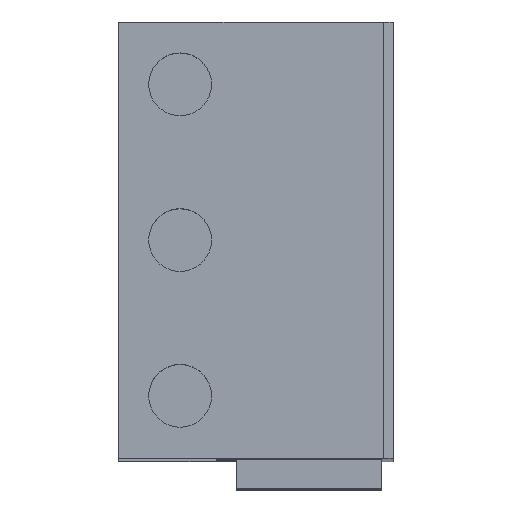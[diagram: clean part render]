
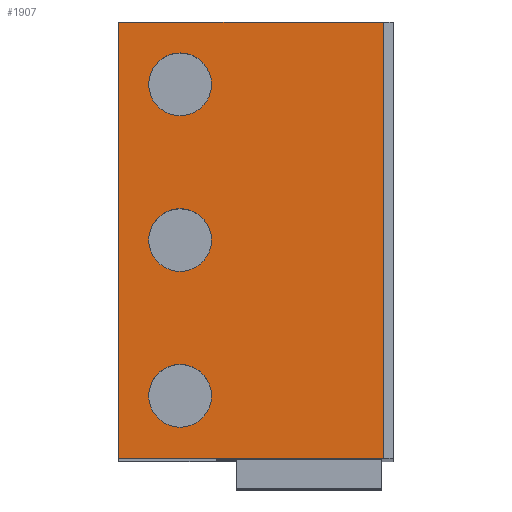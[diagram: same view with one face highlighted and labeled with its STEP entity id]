
A CAD part, top view. The second image highlights one B-rep face of the part: STEP entity #1907.
In plain terms, the highlighted planar face has unit normal (0, 0, 1).
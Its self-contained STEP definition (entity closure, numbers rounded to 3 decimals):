
#32 = PLANE('',#33);
#33 = AXIS2_PLACEMENT_3D('',#34,#35,#36);
#34 = CARTESIAN_POINT('',(138.8,0.,0.));
#35 = DIRECTION('',(0.,1.,0.));
#36 = DIRECTION('',(0.,0.,1.));
#729 = VERTEX_POINT('',#730);
#730 = CARTESIAN_POINT('',(112.,0.,200.));
#744 = PLANE('',#745);
#745 = AXIS2_PLACEMENT_3D('',#746,#747,#748);
#746 = CARTESIAN_POINT('',(112.,0.,188.));
#747 = DIRECTION('',(1.,0.,0.));
#748 = DIRECTION('',(0.,0.,1.));
#756 = EDGE_CURVE('',#757,#729,#759,.T.);
#757 = VERTEX_POINT('',#758);
#758 = CARTESIAN_POINT('',(139.,0.,200.));
#759 = SURFACE_CURVE('',#760,(#764,#771),.PCURVE_S1.);
#760 = LINE('',#761,#762);
#761 = CARTESIAN_POINT('',(140.,0.,200.));
#762 = VECTOR('',#763,1.);
#763 = DIRECTION('',(-1.,0.,0.));
#764 = PCURVE('',#32,#765);
#765 = DEFINITIONAL_REPRESENTATION('',(#766),#770);
#766 = LINE('',#767,#768);
#767 = CARTESIAN_POINT('',(200.,1.2));
#768 = VECTOR('',#769,1.);
#769 = DIRECTION('',(0.,-1.));
#770 = ( GEOMETRIC_REPRESENTATION_CONTEXT(2) 
PARAMETRIC_REPRESENTATION_CONTEXT() REPRESENTATION_CONTEXT('2D SPACE',''
  ) );
#771 = PCURVE('',#772,#777);
#772 = PLANE('',#773);
#773 = AXIS2_PLACEMENT_3D('',#774,#775,#776);
#774 = CARTESIAN_POINT('',(138.8,0.,200.));
#775 = DIRECTION('',(0.,0.,1.));
#776 = DIRECTION('',(1.,0.,0.));
#777 = DEFINITIONAL_REPRESENTATION('',(#778),#782);
#778 = LINE('',#779,#780);
#779 = CARTESIAN_POINT('',(1.2,0.));
#780 = VECTOR('',#781,1.);
#781 = DIRECTION('',(-1.,0.));
#782 = ( GEOMETRIC_REPRESENTATION_CONTEXT(2) 
PARAMETRIC_REPRESENTATION_CONTEXT() REPRESENTATION_CONTEXT('2D SPACE',''
  ) );
#799 = PLANE('',#800);
#800 = AXIS2_PLACEMENT_3D('',#801,#802,#803);
#801 = CARTESIAN_POINT('',(138.,-1.,201.));
#802 = DIRECTION('',(-0.707,-0.,-0.707));
#803 = DIRECTION('',(0.707,0.,-0.707));
#1204 = PLANE('',#1205);
#1205 = AXIS2_PLACEMENT_3D('',#1206,#1207,#1208);
#1206 = CARTESIAN_POINT('',(138.8,44.45,0.));
#1207 = DIRECTION('',(0.,1.,0.));
#1208 = DIRECTION('',(0.,0.,1.));
#1819 = EDGE_CURVE('',#1820,#757,#1822,.T.);
#1820 = VERTEX_POINT('',#1821);
#1821 = CARTESIAN_POINT('',(139.,44.45,200.));
#1822 = SURFACE_CURVE('',#1823,(#1827,#1833),.PCURVE_S1.);
#1823 = LINE('',#1824,#1825);
#1824 = CARTESIAN_POINT('',(139.,-0.5,200.));
#1825 = VECTOR('',#1826,1.);
#1826 = DIRECTION('',(0.,-1.,0.));
#1827 = PCURVE('',#799,#1828);
#1828 = DEFINITIONAL_REPRESENTATION('',(#1829),#1832);
#1829 = B_SPLINE_CURVE_WITH_KNOTS('',1,(#1830,#1831),.UNSPECIFIED.,.F.,
  .F.,(2,2),(-44.95,-0.5),.PIECEWISE_BEZIER_KNOTS.);
#1830 = CARTESIAN_POINT('',(1.414,-45.45));
#1831 = CARTESIAN_POINT('',(1.414,-1.));
#1832 = ( GEOMETRIC_REPRESENTATION_CONTEXT(2) 
PARAMETRIC_REPRESENTATION_CONTEXT() REPRESENTATION_CONTEXT('2D SPACE',''
  ) );
#1833 = PCURVE('',#772,#1834);
#1834 = DEFINITIONAL_REPRESENTATION('',(#1835),#1838);
#1835 = B_SPLINE_CURVE_WITH_KNOTS('',1,(#1836,#1837),.UNSPECIFIED.,.F.,
  .F.,(2,2),(-44.95,-0.5),.PIECEWISE_BEZIER_KNOTS.);
#1836 = CARTESIAN_POINT('',(0.2,44.45));
#1837 = CARTESIAN_POINT('',(0.2,0.));
#1838 = ( GEOMETRIC_REPRESENTATION_CONTEXT(2) 
PARAMETRIC_REPRESENTATION_CONTEXT() REPRESENTATION_CONTEXT('2D SPACE',''
  ) );
#1907 = ADVANCED_FACE('',(#1908,#1956,#1991,#2026),#772,.T.);
#1908 = FACE_BOUND('',#1909,.T.);
#1909 = EDGE_LOOP('',(#1910,#1911,#1934,#1955));
#1910 = ORIENTED_EDGE('',*,*,#1819,.F.);
#1911 = ORIENTED_EDGE('',*,*,#1912,.T.);
#1912 = EDGE_CURVE('',#1820,#1913,#1915,.T.);
#1913 = VERTEX_POINT('',#1914);
#1914 = CARTESIAN_POINT('',(112.,44.45,200.));
#1915 = SURFACE_CURVE('',#1916,(#1920,#1927),.PCURVE_S1.);
#1916 = LINE('',#1917,#1918);
#1917 = CARTESIAN_POINT('',(140.,44.45,200.));
#1918 = VECTOR('',#1919,1.);
#1919 = DIRECTION('',(-1.,0.,0.));
#1920 = PCURVE('',#772,#1921);
#1921 = DEFINITIONAL_REPRESENTATION('',(#1922),#1926);
#1922 = LINE('',#1923,#1924);
#1923 = CARTESIAN_POINT('',(1.2,44.45));
#1924 = VECTOR('',#1925,1.);
#1925 = DIRECTION('',(-1.,0.));
#1926 = ( GEOMETRIC_REPRESENTATION_CONTEXT(2) 
PARAMETRIC_REPRESENTATION_CONTEXT() REPRESENTATION_CONTEXT('2D SPACE',''
  ) );
#1927 = PCURVE('',#1204,#1928);
#1928 = DEFINITIONAL_REPRESENTATION('',(#1929),#1933);
#1929 = LINE('',#1930,#1931);
#1930 = CARTESIAN_POINT('',(200.,1.2));
#1931 = VECTOR('',#1932,1.);
#1932 = DIRECTION('',(0.,-1.));
#1933 = ( GEOMETRIC_REPRESENTATION_CONTEXT(2) 
PARAMETRIC_REPRESENTATION_CONTEXT() REPRESENTATION_CONTEXT('2D SPACE',''
  ) );
#1934 = ORIENTED_EDGE('',*,*,#1935,.F.);
#1935 = EDGE_CURVE('',#729,#1913,#1936,.T.);
#1936 = SURFACE_CURVE('',#1937,(#1941,#1948),.PCURVE_S1.);
#1937 = LINE('',#1938,#1939);
#1938 = CARTESIAN_POINT('',(112.,0.,200.));
#1939 = VECTOR('',#1940,1.);
#1940 = DIRECTION('',(0.,1.,0.));
#1941 = PCURVE('',#772,#1942);
#1942 = DEFINITIONAL_REPRESENTATION('',(#1943),#1947);
#1943 = LINE('',#1944,#1945);
#1944 = CARTESIAN_POINT('',(-26.8,0.));
#1945 = VECTOR('',#1946,1.);
#1946 = DIRECTION('',(0.,1.));
#1947 = ( GEOMETRIC_REPRESENTATION_CONTEXT(2) 
PARAMETRIC_REPRESENTATION_CONTEXT() REPRESENTATION_CONTEXT('2D SPACE',''
  ) );
#1948 = PCURVE('',#744,#1949);
#1949 = DEFINITIONAL_REPRESENTATION('',(#1950),#1954);
#1950 = LINE('',#1951,#1952);
#1951 = CARTESIAN_POINT('',(12.,0.));
#1952 = VECTOR('',#1953,1.);
#1953 = DIRECTION('',(0.,-1.));
#1954 = ( GEOMETRIC_REPRESENTATION_CONTEXT(2) 
PARAMETRIC_REPRESENTATION_CONTEXT() REPRESENTATION_CONTEXT('2D SPACE',''
  ) );
#1955 = ORIENTED_EDGE('',*,*,#756,.F.);
#1956 = FACE_BOUND('',#1957,.T.);
#1957 = EDGE_LOOP('',(#1958));
#1958 = ORIENTED_EDGE('',*,*,#1959,.T.);
#1959 = EDGE_CURVE('',#1960,#1960,#1962,.T.);
#1960 = VERTEX_POINT('',#1961);
#1961 = CARTESIAN_POINT('',(121.463,6.35,200.));
#1962 = SURFACE_CURVE('',#1963,(#1968,#1979),.PCURVE_S1.);
#1963 = CIRCLE('',#1964,3.2);
#1964 = AXIS2_PLACEMENT_3D('',#1965,#1966,#1967);
#1965 = CARTESIAN_POINT('',(118.263,6.35,200.));
#1966 = DIRECTION('',(0.,0.,-1.));
#1967 = DIRECTION('',(1.,0.,0.));
#1968 = PCURVE('',#772,#1969);
#1969 = DEFINITIONAL_REPRESENTATION('',(#1970),#1978);
#1970 = ( BOUNDED_CURVE() B_SPLINE_CURVE(2,(#1971,#1972,#1973,#1974,
#1975,#1976,#1977),.UNSPECIFIED.,.T.,.F.) B_SPLINE_CURVE_WITH_KNOTS((1,2
    ,2,2,2,1),(-2.094,0.,2.094,4.189,
6.283,8.378),.UNSPECIFIED.) CURVE() 
GEOMETRIC_REPRESENTATION_ITEM() RATIONAL_B_SPLINE_CURVE((1.,0.5,1.,0.5,
1.,0.5,1.)) REPRESENTATION_ITEM('') );
#1971 = CARTESIAN_POINT('',(-17.338,6.35));
#1972 = CARTESIAN_POINT('',(-17.338,0.807));
#1973 = CARTESIAN_POINT('',(-22.138,3.579));
#1974 = CARTESIAN_POINT('',(-26.938,6.35));
#1975 = CARTESIAN_POINT('',(-22.138,9.121));
#1976 = CARTESIAN_POINT('',(-17.338,11.893));
#1977 = CARTESIAN_POINT('',(-17.338,6.35));
#1978 = ( GEOMETRIC_REPRESENTATION_CONTEXT(2) 
PARAMETRIC_REPRESENTATION_CONTEXT() REPRESENTATION_CONTEXT('2D SPACE',''
  ) );
#1979 = PCURVE('',#1980,#1985);
#1980 = CYLINDRICAL_SURFACE('',#1981,3.2);
#1981 = AXIS2_PLACEMENT_3D('',#1982,#1983,#1984);
#1982 = CARTESIAN_POINT('',(118.263,6.35,190.));
#1983 = DIRECTION('',(-0.,-0.,-1.));
#1984 = DIRECTION('',(1.,0.,0.));
#1985 = DEFINITIONAL_REPRESENTATION('',(#1986),#1990);
#1986 = LINE('',#1987,#1988);
#1987 = CARTESIAN_POINT('',(-6.283,-10.));
#1988 = VECTOR('',#1989,1.);
#1989 = DIRECTION('',(1.,-0.));
#1990 = ( GEOMETRIC_REPRESENTATION_CONTEXT(2) 
PARAMETRIC_REPRESENTATION_CONTEXT() REPRESENTATION_CONTEXT('2D SPACE',''
  ) );
#1991 = FACE_BOUND('',#1992,.T.);
#1992 = EDGE_LOOP('',(#1993));
#1993 = ORIENTED_EDGE('',*,*,#1994,.T.);
#1994 = EDGE_CURVE('',#1995,#1995,#1997,.T.);
#1995 = VERTEX_POINT('',#1996);
#1996 = CARTESIAN_POINT('',(121.463,22.225,200.));
#1997 = SURFACE_CURVE('',#1998,(#2003,#2014),.PCURVE_S1.);
#1998 = CIRCLE('',#1999,3.2);
#1999 = AXIS2_PLACEMENT_3D('',#2000,#2001,#2002);
#2000 = CARTESIAN_POINT('',(118.263,22.225,200.));
#2001 = DIRECTION('',(0.,0.,-1.));
#2002 = DIRECTION('',(1.,0.,0.));
#2003 = PCURVE('',#772,#2004);
#2004 = DEFINITIONAL_REPRESENTATION('',(#2005),#2013);
#2005 = ( BOUNDED_CURVE() B_SPLINE_CURVE(2,(#2006,#2007,#2008,#2009,
#2010,#2011,#2012),.UNSPECIFIED.,.T.,.F.) B_SPLINE_CURVE_WITH_KNOTS((1,2
    ,2,2,2,1),(-2.094,0.,2.094,4.189,
6.283,8.378),.UNSPECIFIED.) CURVE() 
GEOMETRIC_REPRESENTATION_ITEM() RATIONAL_B_SPLINE_CURVE((1.,0.5,1.,0.5,
1.,0.5,1.)) REPRESENTATION_ITEM('') );
#2006 = CARTESIAN_POINT('',(-17.338,22.225));
#2007 = CARTESIAN_POINT('',(-17.338,16.682));
#2008 = CARTESIAN_POINT('',(-22.138,19.454));
#2009 = CARTESIAN_POINT('',(-26.938,22.225));
#2010 = CARTESIAN_POINT('',(-22.138,24.996));
#2011 = CARTESIAN_POINT('',(-17.338,27.768));
#2012 = CARTESIAN_POINT('',(-17.338,22.225));
#2013 = ( GEOMETRIC_REPRESENTATION_CONTEXT(2) 
PARAMETRIC_REPRESENTATION_CONTEXT() REPRESENTATION_CONTEXT('2D SPACE',''
  ) );
#2014 = PCURVE('',#2015,#2020);
#2015 = CYLINDRICAL_SURFACE('',#2016,3.2);
#2016 = AXIS2_PLACEMENT_3D('',#2017,#2018,#2019);
#2017 = CARTESIAN_POINT('',(118.263,22.225,190.));
#2018 = DIRECTION('',(-0.,-0.,-1.));
#2019 = DIRECTION('',(1.,0.,0.));
#2020 = DEFINITIONAL_REPRESENTATION('',(#2021),#2025);
#2021 = LINE('',#2022,#2023);
#2022 = CARTESIAN_POINT('',(-6.283,-10.));
#2023 = VECTOR('',#2024,1.);
#2024 = DIRECTION('',(1.,-0.));
#2025 = ( GEOMETRIC_REPRESENTATION_CONTEXT(2) 
PARAMETRIC_REPRESENTATION_CONTEXT() REPRESENTATION_CONTEXT('2D SPACE',''
  ) );
#2026 = FACE_BOUND('',#2027,.T.);
#2027 = EDGE_LOOP('',(#2028));
#2028 = ORIENTED_EDGE('',*,*,#2029,.T.);
#2029 = EDGE_CURVE('',#2030,#2030,#2032,.T.);
#2030 = VERTEX_POINT('',#2031);
#2031 = CARTESIAN_POINT('',(121.463,38.1,200.));
#2032 = SURFACE_CURVE('',#2033,(#2038,#2049),.PCURVE_S1.);
#2033 = CIRCLE('',#2034,3.2);
#2034 = AXIS2_PLACEMENT_3D('',#2035,#2036,#2037);
#2035 = CARTESIAN_POINT('',(118.263,38.1,200.));
#2036 = DIRECTION('',(0.,0.,-1.));
#2037 = DIRECTION('',(1.,0.,0.));
#2038 = PCURVE('',#772,#2039);
#2039 = DEFINITIONAL_REPRESENTATION('',(#2040),#2048);
#2040 = ( BOUNDED_CURVE() B_SPLINE_CURVE(2,(#2041,#2042,#2043,#2044,
#2045,#2046,#2047),.UNSPECIFIED.,.T.,.F.) B_SPLINE_CURVE_WITH_KNOTS((1,2
    ,2,2,2,1),(-2.094,0.,2.094,4.189,
6.283,8.378),.UNSPECIFIED.) CURVE() 
GEOMETRIC_REPRESENTATION_ITEM() RATIONAL_B_SPLINE_CURVE((1.,0.5,1.,0.5,
1.,0.5,1.)) REPRESENTATION_ITEM('') );
#2041 = CARTESIAN_POINT('',(-17.338,38.1));
#2042 = CARTESIAN_POINT('',(-17.338,32.557));
#2043 = CARTESIAN_POINT('',(-22.138,35.329));
#2044 = CARTESIAN_POINT('',(-26.938,38.1));
#2045 = CARTESIAN_POINT('',(-22.138,40.871));
#2046 = CARTESIAN_POINT('',(-17.338,43.643));
#2047 = CARTESIAN_POINT('',(-17.338,38.1));
#2048 = ( GEOMETRIC_REPRESENTATION_CONTEXT(2) 
PARAMETRIC_REPRESENTATION_CONTEXT() REPRESENTATION_CONTEXT('2D SPACE',''
  ) );
#2049 = PCURVE('',#2050,#2055);
#2050 = CYLINDRICAL_SURFACE('',#2051,3.2);
#2051 = AXIS2_PLACEMENT_3D('',#2052,#2053,#2054);
#2052 = CARTESIAN_POINT('',(118.263,38.1,190.));
#2053 = DIRECTION('',(-0.,-0.,-1.));
#2054 = DIRECTION('',(1.,0.,0.));
#2055 = DEFINITIONAL_REPRESENTATION('',(#2056),#2060);
#2056 = LINE('',#2057,#2058);
#2057 = CARTESIAN_POINT('',(-6.283,-10.));
#2058 = VECTOR('',#2059,1.);
#2059 = DIRECTION('',(1.,-0.));
#2060 = ( GEOMETRIC_REPRESENTATION_CONTEXT(2) 
PARAMETRIC_REPRESENTATION_CONTEXT() REPRESENTATION_CONTEXT('2D SPACE',''
  ) );
